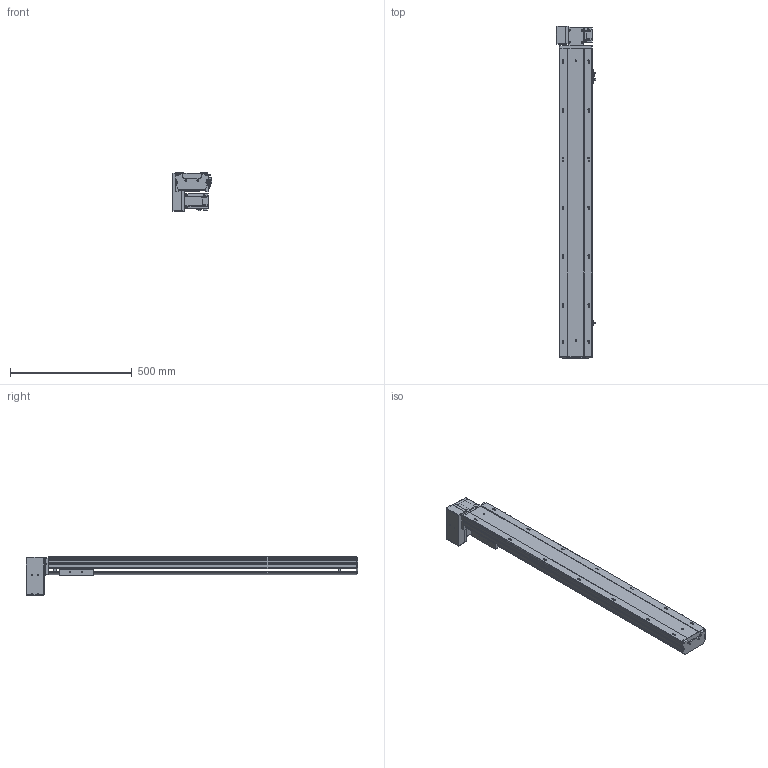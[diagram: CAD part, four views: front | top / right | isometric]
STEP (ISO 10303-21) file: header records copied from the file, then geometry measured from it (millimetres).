
FILE_DESCRIPTION (( 'STEP AP203' ), '1' );
FILE_NAME ('100.STEP', '2022-07-21T11:53:45', ( '' ), ( '' ), 'SwSTEP 2.0', 'SolidWorks 2016', '' );
FILE_SCHEMA (( 'CONFIG_CONTROL_DESIGN' ));
Length unit declared in the file: millimetre
Products named in the file (10): BTB14-L-23; BTB14-L-24; BTB14-L-04; BTB14-L-M40; BTB14-L-06; BTB14-L-菁釱_XD; 100; BTB14-L-02; BTB14-L-HZ; BTB14-L-01
Assembly tree (12 placements, depth 2):
  100
    BTB14-L-菁釱_XD
    BTB14-L-01
    BTB14-L-02
    BTB14-L-04  x3
    BTB14-L-06
    BTB14-L-23  x2
    BTB14-L-24
    BTB14-L-HZ
    BTB14-L-M40
Bounding box: 160.7 x 1362.5 x 156.7 mm (x, y, z)
Volume: 6277355.2 mm3; surface area: 1329492.5 mm2
Topology: 22 solids, 22 shells, 1618 faces, 4277 edges, 2728 vertices
Faces by surface type: plane 937, cylinder 464, cone 128, bspline 77, torus 12
Entity records: 42910 total; most frequent: CARTESIAN_POINT 10599, ORIENTED_EDGE 6468, DIRECTION 6420, EDGE_CURVE 3234, VECTOR 2206, LINE 2206, AXIS2_PLACEMENT_3D 2107, VERTEX_POINT 2106
